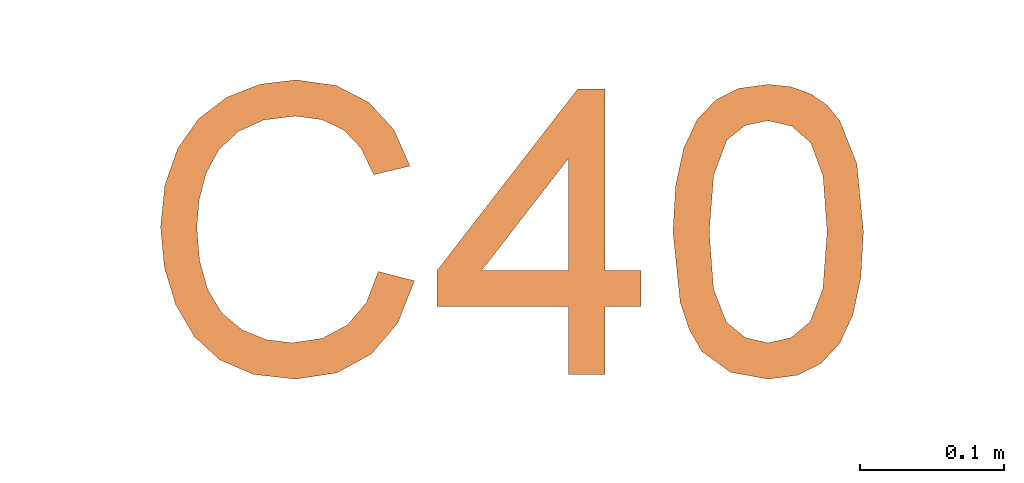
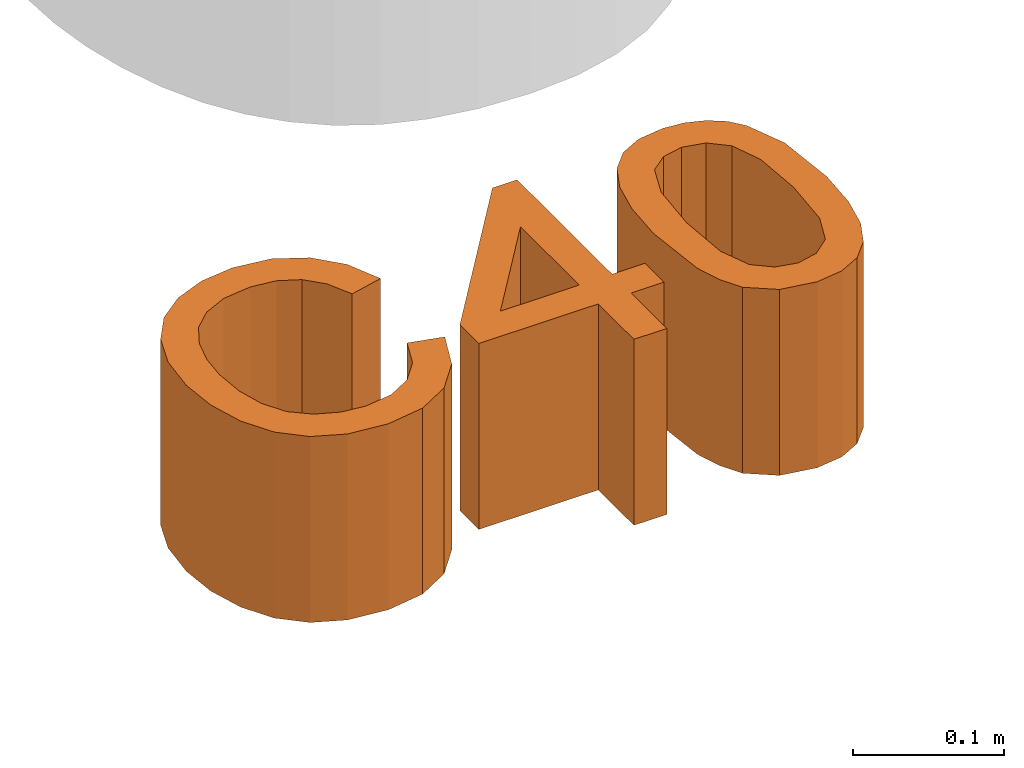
# One storey, part 8 of 8: 1 proxy.
"""IFC2X3 building model written with IfcOpenShell, lengths in metres."""

from ifc_helpers import new_model, entity, si_unit, converted_unit, derived_unit, direction, frame, origin, place, context, subcontext, project, spatial, polyline, outline, extrude, type_object, element, save


model = new_model("IFC2X3")

# Units and contexts
model_context = context("Model", 3, precision=1e-05, world=origin(), true_north=direction((6.12303176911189e-17, 1.0)))
body_context = subcontext(model_context, "Body", "Model", "MODEL_VIEW")
ifc_project = project(units=[si_unit("LENGTHUNIT", "METRE"), si_unit("AREAUNIT", "SQUARE_METRE"), si_unit("VOLUMEUNIT", "CUBIC_METRE"), converted_unit("PLANEANGLEUNIT", "DEGREE", entity("IfcRatioMeasure", 0.0174532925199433), si_unit("PLANEANGLEUNIT", "RADIAN"), dimensions=[0, 0, 0, 0, 0, 0, 0]), si_unit("MASSUNIT", "GRAM", prefix="KILO"), derived_unit("MASSDENSITYUNIT", [(si_unit("MASSUNIT", "GRAM", prefix="KILO"), 1), (si_unit("LENGTHUNIT", "METRE"), -3)]), derived_unit("MOMENTOFINERTIAUNIT", [(si_unit("LENGTHUNIT", "METRE"), 4)]), si_unit("TIMEUNIT", "SECOND"), si_unit("FREQUENCYUNIT", "HERTZ"), si_unit("THERMODYNAMICTEMPERATUREUNIT", "DEGREE_CELSIUS"), derived_unit("THERMALTRANSMITTANCEUNIT", [(si_unit("MASSUNIT", "GRAM", prefix="KILO"), 1), (si_unit("THERMODYNAMICTEMPERATUREUNIT", "KELVIN"), -1), (si_unit("TIMEUNIT", "SECOND"), -3)]), derived_unit("VOLUMETRICFLOWRATEUNIT", [(si_unit("LENGTHUNIT", "METRE"), 3), (si_unit("TIMEUNIT", "SECOND"), -1)]), si_unit("ELECTRICCURRENTUNIT", "AMPERE"), si_unit("ELECTRICVOLTAGEUNIT", "VOLT"), si_unit("POWERUNIT", "WATT"), si_unit("FORCEUNIT", "NEWTON", prefix="KILO"), si_unit("ILLUMINANCEUNIT", "LUX"), si_unit("LUMINOUSFLUXUNIT", "LUMEN"), si_unit("LUMINOUSINTENSITYUNIT", "CANDELA"), derived_unit("USERDEFINED", [(si_unit("MASSUNIT", "GRAM", prefix="KILO"), -1), (si_unit("LENGTHUNIT", "METRE"), -2), (si_unit("TIMEUNIT", "SECOND"), 3), (si_unit("LUMINOUSFLUXUNIT", "LUMEN"), 1)]), derived_unit("LINEARVELOCITYUNIT", [(si_unit("LENGTHUNIT", "METRE"), 1), (si_unit("TIMEUNIT", "SECOND"), -1)]), si_unit("PRESSUREUNIT", "PASCAL"), derived_unit("USERDEFINED", [(si_unit("LENGTHUNIT", "METRE"), -2), (si_unit("MASSUNIT", "GRAM", prefix="KILO"), 1), (si_unit("TIMEUNIT", "SECOND"), -2)]), derived_unit("LINEARFORCEUNIT", [(si_unit("MASSUNIT", "GRAM", prefix="KILO"), 1), (si_unit("LENGTHUNIT", "METRE"), 1), (si_unit("TIMEUNIT", "SECOND"), -2), (si_unit("LENGTHUNIT", "METRE"), -1)]), derived_unit("PLANARFORCEUNIT", [(si_unit("MASSUNIT", "GRAM", prefix="KILO"), 1), (si_unit("LENGTHUNIT", "METRE"), 1), (si_unit("TIMEUNIT", "SECOND"), -2), (si_unit("LENGTHUNIT", "METRE"), -2)])], contexts=[model_context])

# Site, building, storey
site_placement = place(None, origin())
site = spatial("IfcSite", under=ifc_project, at=site_placement, Name="Default", CompositionType="ELEMENT")
building_placement = place(site_placement, origin())
building = spatial("IfcBuilding", under=site, at=building_placement, CompositionType="ELEMENT")
storey_placement = place(building_placement, origin())
storey = spatial("IfcBuildingStorey", under=building, at=storey_placement, Name="Nivel 1", CompositionType="ELEMENT", Elevation=0.0)

# Proxy
building_element_proxy_type = type_object("IfcBuildingElementProxyType", Name="Texto de modelo:Subtítulo", PredefinedType="NOTDEFINED")
proxy_placement = place(storey_placement, origin())
element("IfcBuildingElementProxy", 1, at=proxy_placement, inside=storey, type_object=building_element_proxy_type, Name="Texto de modelo:Subtítulo", ObjectType="Texto de modelo:Subtítulo", context=body_context, shape_type="SweptSolid", body=[
    extrude(outline(polyline([(0.00355232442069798, -0.0754517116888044), (0.000735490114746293, -0.101233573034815), (0.0322073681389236, -0.100733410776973), (0.0586340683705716, -0.0912753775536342), (0.0793092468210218, -0.0735495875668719), (0.0935265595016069, -0.048246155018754), (0.100733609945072, -0.019829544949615), (0.0996500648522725, 0.00530853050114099), (0.0908072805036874, 0.0276031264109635), (0.074736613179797, 0.0474892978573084), (0.0532622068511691, 0.0640355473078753), (0.0282082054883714, 0.0763103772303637), (-0.000248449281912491, 0.0838799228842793), (-0.0270668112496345, 0.0844731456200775), (-0.0513308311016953, 0.0782421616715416), (-0.0721244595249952, 0.0653390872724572), (-0.0887450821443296, 0.0469994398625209), (-0.100490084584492, 0.0244587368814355), (-0.106560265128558, -0.00268319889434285), (-0.103625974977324, -0.0281270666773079), (-0.0921127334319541, -0.0509518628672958), (-0.0724460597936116, -0.0702365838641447), (-0.0579739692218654, -0.0488570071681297), (-0.0720305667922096, -0.0342408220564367), (-0.0795803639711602, -0.01867414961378), (-0.0809958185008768, -0.00185900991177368), (-0.0766493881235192, 0.0165025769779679), (-0.0665154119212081, 0.0357323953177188), (-0.0527173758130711, 0.0494622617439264), (-0.036196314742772, 0.0575953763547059), (-0.0178932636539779, 0.0600349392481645), (0.000999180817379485, 0.0580310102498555), (0.0192884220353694, 0.0528336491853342), (0.0403234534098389, 0.0428633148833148), (0.0570828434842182, 0.0304574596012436), (0.0687737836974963, 0.0156861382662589), (0.0746034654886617, -0.00138059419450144), (0.0751312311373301, -0.0194006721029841), (0.0709164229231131, -0.0370320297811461), (0.060595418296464, -0.0555423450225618), (0.045681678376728, -0.0685820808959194), (0.0265442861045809, -0.0754517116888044), (0.00355232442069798, -0.0754517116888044)])), frame((13.8738242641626, 0.358696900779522, 0.0), z_axis=(0.0, 0.0, -1.0), x_axis=(-0.353343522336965, -0.935493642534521, 0.0)), (0.0, 0.0, -1.0), 0.15),
    extrude(outline(polyline([(-0.00228309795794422, -0.0727737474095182), (0.0228309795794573, -0.0727737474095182), (0.0228309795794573, -0.0256848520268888), (0.047945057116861, -0.0256848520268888), (0.047945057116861, -0.00057077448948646), (0.0228309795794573, -0.00057077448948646), (0.0228309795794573, 0.124999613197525), (0.00399542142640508, 0.124999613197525), (-0.0933216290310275, -0.00057077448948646), (-0.0933216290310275, -0.0256848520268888), (-0.00228309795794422, -0.0256848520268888), (-0.00228309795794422, -0.0727737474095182)]), holes=[polyline([(-0.00228309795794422, -0.00057077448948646), (-0.0624195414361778, -0.00057077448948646), (-0.00228309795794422, 0.0770278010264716), (-0.00228309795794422, -0.00057077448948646)])]), frame((14.0772856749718, 0.330068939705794, 0.0)), (0.0, 0.0, 1.0), 0.15),
    extrude(outline(polyline([(-0.00189888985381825, -0.0664927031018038), (0.0472235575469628, -0.0664927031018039), (0.0666133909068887, -0.0621912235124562), (0.0825556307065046, -0.0550220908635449), (0.0988467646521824, -0.036769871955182), (0.106262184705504, -0.0112975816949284), (0.105591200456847, 0.00917819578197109), (0.0990519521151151, 0.0263964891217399), (0.0865641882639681, 0.0404764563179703), (0.0680476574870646, 0.0515372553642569), (0.0431528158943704, 0.0595961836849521), (0.0115301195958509, 0.064670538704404), (-0.0359005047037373, 0.0649410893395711), (-0.0666698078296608, 0.0562576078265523), (-0.0782574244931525, 0.048728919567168), (-0.0872999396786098, 0.0380058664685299), (-0.0935420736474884, 0.024715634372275), (-0.0967285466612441, 0.0094854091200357), (-0.0960646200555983, -0.0108787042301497), (-0.0895765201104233, -0.0280547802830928), (-0.0771455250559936, -0.0421474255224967), (-0.0586529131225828, -0.0532612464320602), (-0.0337026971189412, -0.0613813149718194), (-0.00189888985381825, -0.0664927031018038)]), holes=[polyline([(0.000610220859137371, -0.0415042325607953), (-0.0378727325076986, -0.0345071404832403), (-0.0612926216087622, -0.0229381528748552), (-0.0700337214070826, -0.00934656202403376), (-0.071775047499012, 0.0066347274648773), (-0.0662900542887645, 0.0227636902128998), (-0.0535720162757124, 0.0346512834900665), (-0.0297808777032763, 0.0407949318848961), (0.00892341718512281, 0.0396920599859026), (0.0478616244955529, 0.0327469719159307), (0.0697195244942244, 0.0216337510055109), (0.0792681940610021, 0.00744175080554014), (0.0812787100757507, -0.00873967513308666), (0.0760430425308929, -0.0241792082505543), (0.0638531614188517, -0.0361455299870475), (0.0402089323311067, -0.042600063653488), (0.000610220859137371, -0.0415042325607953)])]), frame((14.2135458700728, 0.361016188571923, 0.0), z_axis=(0.0, 0.0, 1.0), x_axis=(0.101851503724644, -0.994799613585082, 0.0)), (0.0, 0.0, 1.0), 0.15),
])

save(model, "model.ifc")
